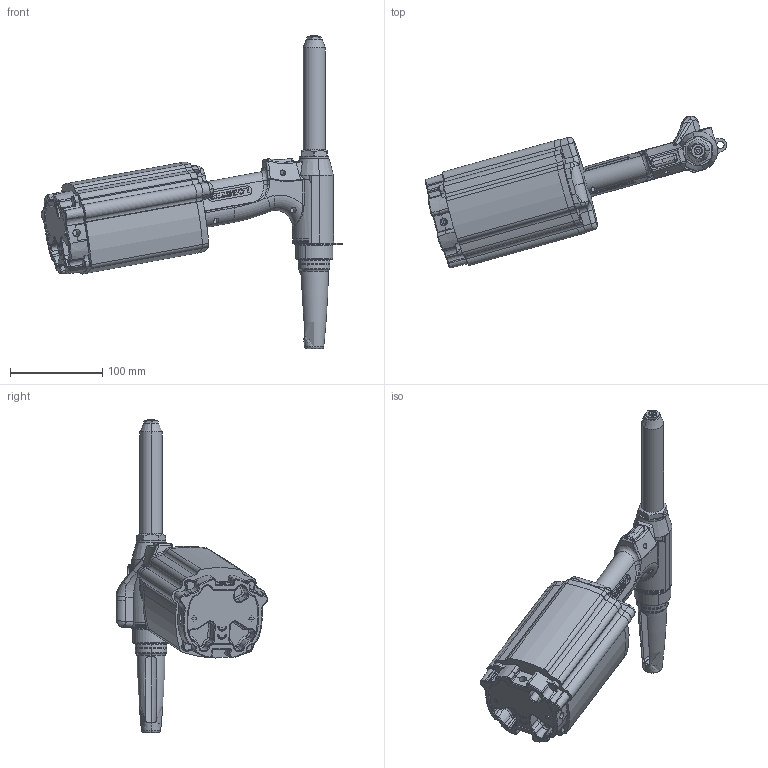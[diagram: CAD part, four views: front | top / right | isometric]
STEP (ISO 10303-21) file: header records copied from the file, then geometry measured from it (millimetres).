
FILE_DESCRIPTION (( 'STEP AP203' ), '1' );
FILE_NAME ('AR2000HA.STEP', '2018-02-26T02:59:53', ( '' ), ( '' ), 'SwSTEP 2.0', 'SolidWorks 2017', '' );
FILE_SCHEMA (( 'CONFIG_CONTROL_DESIGN' ));
Length unit declared in the file: millimetre
Products named in the file (1): AR2000HA
Bounding box: 326.94 x 164.46 x 339.4 mm (x, y, z)
Surface area: 170635.1 mm2 (no closed solid volume)
Topology: 0 solids, 15 shells, 799 faces, 2420 edges, 1586 vertices
Faces by surface type: cylinder 231, torus 198, plane 173, cone 104, bspline 87, sphere 6
Entity records: 33976 total; most frequent: CARTESIAN_POINT 12869, DIRECTION 4600, ORIENTED_EDGE 4153, EDGE_CURVE 2401, AXIS2_PLACEMENT_3D 1879, VERTEX_POINT 1586, CIRCLE 1166, EDGE_LOOP 867
